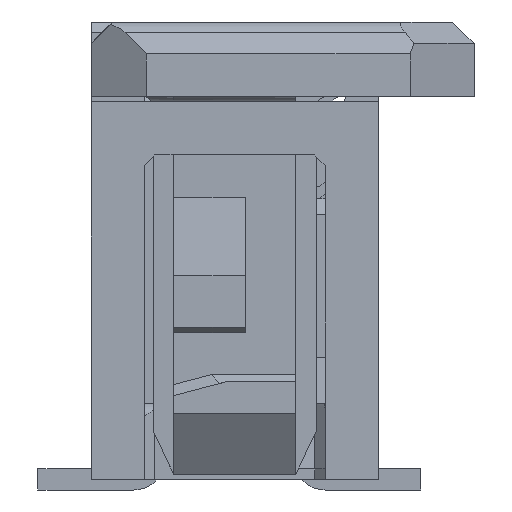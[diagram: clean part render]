
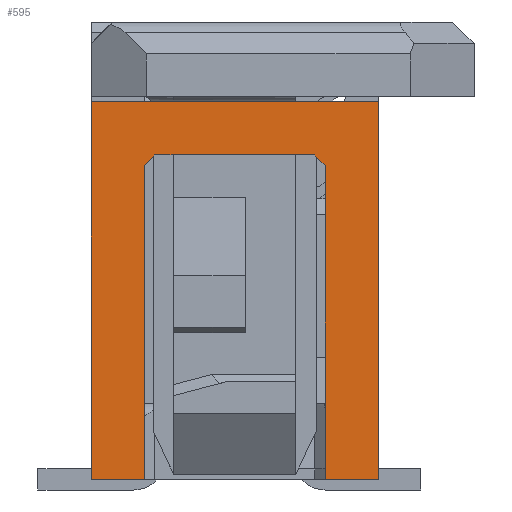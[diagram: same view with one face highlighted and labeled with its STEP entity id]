
A CAD part, left-side view. The second image highlights one B-rep face of the part: STEP entity #595.
In plain terms, the highlighted planar face has unit normal (-1, 0, 0).
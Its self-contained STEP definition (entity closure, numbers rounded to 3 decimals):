
#595 = ADVANCED_FACE ( 'NONE', ( #38151 ), #31234, .T. ) ;
#621 = VERTEX_POINT ( 'NONE', #5805 ) ;
#884 = CARTESIAN_POINT ( 'NONE',  ( -14.75, 0., 0. ) ) ;
#1634 = CARTESIAN_POINT ( 'NONE',  ( -14.75, -0.5, 2.95 ) ) ;
#2170 = CARTESIAN_POINT ( 'NONE',  ( -14.75, 0., 0. ) ) ;
#2625 = VERTEX_POINT ( 'NONE', #1634 ) ;
#2967 = B_SPLINE_CURVE_WITH_KNOTS ( 'NONE', 3,
 ( #11902, #15097, #37200, #18273 ),
 .UNSPECIFIED., .F., .F.,
 ( 4, 4 ),
 ( 0., 1. ),
 .UNSPECIFIED. ) ;
#3767 = CARTESIAN_POINT ( 'NONE',  ( -14.75, -0.6, 3.05 ) ) ;
#4628 = CARTESIAN_POINT ( 'NONE',  ( -14.75, -1.6, 3.05 ) ) ;
#5805 = CARTESIAN_POINT ( 'NONE',  ( -14.75, -0.5, 0. ) ) ;
#5856 = CARTESIAN_POINT ( 'NONE',  ( -14.75, -0.533, 2.983 ) ) ;
#6036 = CARTESIAN_POINT ( 'NONE',  ( -14.75, -2.1, 3.05 ) ) ;
#6197 = CARTESIAN_POINT ( 'NONE',  ( -14.75, -2.7, 0. ) ) ;
#7449 = LINE ( 'NONE', #884, #31684 ) ;
#7787 = CARTESIAN_POINT ( 'NONE',  ( -14.75, -1.1, 3.05 ) ) ;
#8020 = VERTEX_POINT ( 'NONE', #6036 ) ;
#8280 = B_SPLINE_CURVE_WITH_KNOTS ( 'NONE', 3,
 ( #23564, #4628, #7787, #29917 ),
 .UNSPECIFIED., .F., .F.,
 ( 4, 4 ),
 ( 0., 1. ),
 .UNSPECIFIED. ) ;
#8312 = CARTESIAN_POINT ( 'NONE',  ( -14.75, -2.1, 3.05 ) ) ;
#8965 = DIRECTION ( 'NONE',  ( 0., 0., -1. ) ) ;
#9130 = DIRECTION ( 'NONE',  ( -1., 0., 0. ) ) ;
#9605 = EDGE_CURVE ( 'NONE', #35453, #621, #7449, .T. ) ;
#10011 = EDGE_LOOP ( 'NONE', ( #18930, #13982, #32340, #38595, #33784, #21259, #32373, #35092, #14699, #33893 ) ) ;
#10017 = CARTESIAN_POINT ( 'NONE',  ( -14.75, 0., 0. ) ) ;
#10890 = EDGE_CURVE ( 'NONE', #40266, #8020, #10943, .T. ) ;
#10943 = B_SPLINE_CURVE_WITH_KNOTS ( 'NONE', 3,
 ( #17757, #36683, #27260, #8312 ),
 .UNSPECIFIED., .F., .F.,
 ( 4, 4 ),
 ( 0., 1. ),
 .UNSPECIFIED. ) ;
#11166 = B_SPLINE_CURVE_WITH_KNOTS ( 'NONE', 3,
 ( #21627, #18473, #5856, #27976 ),
 .UNSPECIFIED., .F., .F.,
 ( 4, 4 ),
 ( 0., 1. ),
 .UNSPECIFIED. ) ;
#11902 = CARTESIAN_POINT ( 'NONE',  ( -14.75, 0., 3.55 ) ) ;
#12859 = B_SPLINE_CURVE_WITH_KNOTS ( 'NONE', 3,
 ( #15617, #40745, #25138, #6197 ),
 .UNSPECIFIED., .F., .F.,
 ( 4, 4 ),
 ( 0., 1. ),
 .UNSPECIFIED. ) ;
#13593 = VECTOR ( 'NONE', #31968, 1000. ) ;
#13824 = EDGE_CURVE ( 'NONE', #25974, #2625, #11166, .T. ) ;
#13894 = CARTESIAN_POINT ( 'NONE',  ( -14.75, 0., 0. ) ) ;
#13982 = ORIENTED_EDGE ( 'NONE', *, *, #10890, .F. ) ;
#14699 = ORIENTED_EDGE ( 'NONE', *, *, #38933, .F. ) ;
#15097 = CARTESIAN_POINT ( 'NONE',  ( -14.75, -0.9, 3.55 ) ) ;
#15247 = VECTOR ( 'NONE', #32807, 1000. ) ;
#15617 = CARTESIAN_POINT ( 'NONE',  ( -14.75, -2.7, 3.55 ) ) ;
#17052 = DIRECTION ( 'NONE',  ( 0., -1., 0. ) ) ;
#17757 = CARTESIAN_POINT ( 'NONE',  ( -14.75, -2.2, 2.95 ) ) ;
#18273 = CARTESIAN_POINT ( 'NONE',  ( -14.75, -2.7, 3.55 ) ) ;
#18473 = CARTESIAN_POINT ( 'NONE',  ( -14.75, -0.567, 3.017 ) ) ;
#18903 = CARTESIAN_POINT ( 'NONE',  ( -14.75, 0., 3.55 ) ) ;
#18930 = ORIENTED_EDGE ( 'NONE', *, *, #25602, .F. ) ;
#19449 = CARTESIAN_POINT ( 'NONE',  ( -14.75, 0., 2.367 ) ) ;
#19467 = VERTEX_POINT ( 'NONE', #26182 ) ;
#19543 = VECTOR ( 'NONE', #8965, 1000. ) ;
#21259 = ORIENTED_EDGE ( 'NONE', *, *, #28381, .F. ) ;
#21627 = CARTESIAN_POINT ( 'NONE',  ( -14.75, -0.6, 3.05 ) ) ;
#22480 = CARTESIAN_POINT ( 'NONE',  ( -14.75, 0., 3.55 ) ) ;
#23564 = CARTESIAN_POINT ( 'NONE',  ( -14.75, -2.1, 3.05 ) ) ;
#23943 = CARTESIAN_POINT ( 'NONE',  ( -14.75, -2.7, 0. ) ) ;
#24623 = LINE ( 'NONE', #13894, #15247 ) ;
#25138 = CARTESIAN_POINT ( 'NONE',  ( -14.75, -2.7, 1.183 ) ) ;
#25602 = EDGE_CURVE ( 'NONE', #8020, #25974, #8280, .T. ) ;
#25974 = VERTEX_POINT ( 'NONE', #3767 ) ;
#26182 = CARTESIAN_POINT ( 'NONE',  ( -14.75, -2.7, 3.55 ) ) ;
#26334 = EDGE_CURVE ( 'NONE', #27077, #40266, #38818, .T. ) ;
#26671 = CARTESIAN_POINT ( 'NONE',  ( -14.75, -2.2, 0. ) ) ;
#27006 = AXIS2_PLACEMENT_3D ( 'NONE', #34578, #9130, #28061 ) ;
#27077 = VERTEX_POINT ( 'NONE', #26671 ) ;
#27260 = CARTESIAN_POINT ( 'NONE',  ( -14.75, -2.133, 3.017 ) ) ;
#27912 = LINE ( 'NONE', #27928, #19543 ) ;
#27928 = CARTESIAN_POINT ( 'NONE',  ( -14.75, -0.5, 0. ) ) ;
#27976 = CARTESIAN_POINT ( 'NONE',  ( -14.75, -0.5, 2.95 ) ) ;
#28061 = DIRECTION ( 'NONE',  ( 0., 0., 1. ) ) ;
#28381 = EDGE_CURVE ( 'NONE', #37206, #19467, #2967, .T. ) ;
#28805 = CARTESIAN_POINT ( 'NONE',  ( -14.75, -2.2, 0. ) ) ;
#28970 = CARTESIAN_POINT ( 'NONE',  ( -14.75, 0., 1.183 ) ) ;
#29917 = CARTESIAN_POINT ( 'NONE',  ( -14.75, -0.6, 3.05 ) ) ;
#30010 = EDGE_CURVE ( 'NONE', #37206, #35453, #36169, .T. ) ;
#30151 = EDGE_CURVE ( 'NONE', #27077, #40292, #24623, .T. ) ;
#31234 = PLANE ( 'NONE',  #27006 ) ;
#31684 = VECTOR ( 'NONE', #17052, 1000. ) ;
#31968 = DIRECTION ( 'NONE',  ( 0., 0., 1. ) ) ;
#32340 = ORIENTED_EDGE ( 'NONE', *, *, #26334, .F. ) ;
#32373 = ORIENTED_EDGE ( 'NONE', *, *, #30010, .T. ) ;
#32807 = DIRECTION ( 'NONE',  ( 0., -1., 0. ) ) ;
#33784 = ORIENTED_EDGE ( 'NONE', *, *, #38341, .F. ) ;
#33893 = ORIENTED_EDGE ( 'NONE', *, *, #13824, .F. ) ;
#34578 = CARTESIAN_POINT ( 'NONE',  ( -14.75, 0., 0. ) ) ;
#35092 = ORIENTED_EDGE ( 'NONE', *, *, #9605, .T. ) ;
#35453 = VERTEX_POINT ( 'NONE', #2170 ) ;
#36169 = B_SPLINE_CURVE_WITH_KNOTS ( 'NONE', 3,
 ( #22480, #19449, #28970, #10017 ),
 .UNSPECIFIED., .F., .F.,
 ( 4, 4 ),
 ( 0., 1. ),
 .UNSPECIFIED. ) ;
#36683 = CARTESIAN_POINT ( 'NONE',  ( -14.75, -2.167, 2.983 ) ) ;
#37200 = CARTESIAN_POINT ( 'NONE',  ( -14.75, -1.8, 3.55 ) ) ;
#37206 = VERTEX_POINT ( 'NONE', #18903 ) ;
#38151 = FACE_OUTER_BOUND ( 'NONE', #10011, .T. ) ;
#38341 = EDGE_CURVE ( 'NONE', #19467, #40292, #12859, .T. ) ;
#38595 = ORIENTED_EDGE ( 'NONE', *, *, #30151, .T. ) ;
#38818 = LINE ( 'NONE', #28805, #13593 ) ;
#38933 = EDGE_CURVE ( 'NONE', #2625, #621, #27912, .T. ) ;
#39434 = CARTESIAN_POINT ( 'NONE',  ( -14.75, -2.2, 2.95 ) ) ;
#40266 = VERTEX_POINT ( 'NONE', #39434 ) ;
#40292 = VERTEX_POINT ( 'NONE', #23943 ) ;
#40745 = CARTESIAN_POINT ( 'NONE',  ( -14.75, -2.7, 2.367 ) ) ;
